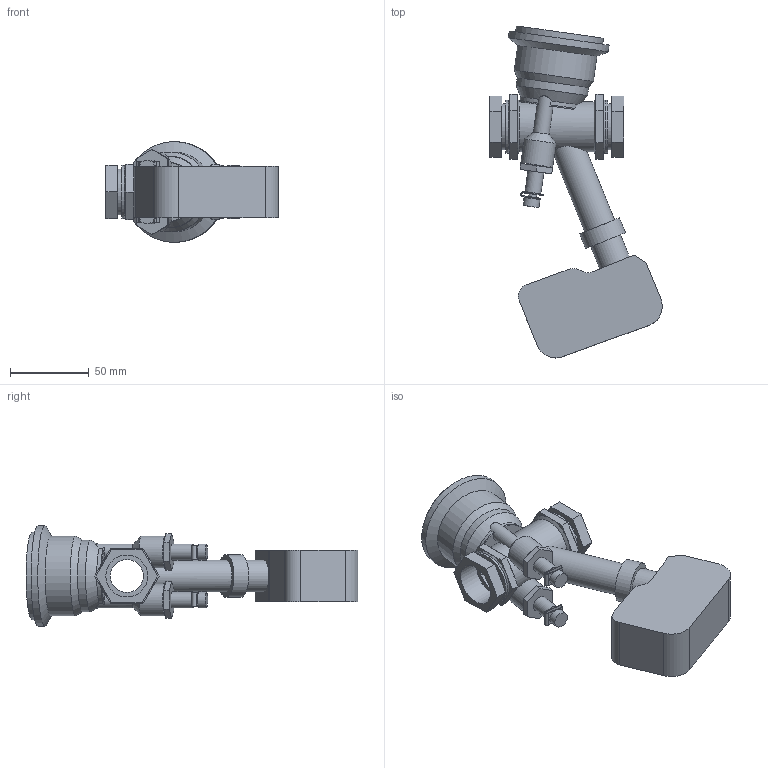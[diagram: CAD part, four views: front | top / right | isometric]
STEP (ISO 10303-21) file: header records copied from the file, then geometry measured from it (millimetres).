
FILE_DESCRIPTION(/* description */ ('VIC BALANCING AND CONTROL VALVE SERIES 7CP (FPT)-TA SLIDER 160 FAIL-SAFE','CAx-IF Rec.Pracs.---Representation and Presentation of Product Manufacturing Information (PMI)---4.0---2014-10-13'),/* implementation_level */ '2;1');
FILE_NAME(/* name */ 'C:\Users\Vjadhav\AppData\Roaming\Autodesk\ApplicationPlugins\Victaulic.Temp\A633\Victaulic_IPS_Valve Balancing Pressure Independent_TA Series 7CP (FPT)_Slider 160 Fail-Safe_0.75 (20).stp',/* time_stamp */ '2021-09-14T20:03:38+06:00',/* author */ ('Vjadhav'),/* organization */ ('Victaulic'),/* preprocessor_version */ 'ST-DEVELOPER v17.2',/* originating_system */ 'Autodesk Inventor 2019',/* authorisation */ '');
FILE_SCHEMA (('AP242_MANAGED_MODEL_BASED_3D_ENGINEERING_MIM_LF { 1 0 10303 442 1 1 4 }'));
Length unit declared in the file: inch
Products named in the file (2): 7CP_Slider 160 Fail-Safe-0.75; 7CP-0.75
Assembly tree (1 placements, depth 2):
  7CP_Slider 160 Fail-Safe-0.75
    7CP-0.75
Bounding box: 109.55 x 210.82 x 64.01 mm (x, y, z)
Volume: 294841.3 mm3; surface area: 58633.4 mm2
Topology: 1 solids, 1 shells, 173 faces, 441 edges, 294 vertices
Faces by surface type: plane 116, cylinder 48, cone 9
Full cylindrical faces by diameter (mm): 5.08 x6, 10.16 x8, 20.32 x4, 20.93 x2, 26.67 x3, 27.184 x1, 29.21 x2, 31.75 x1, 33.782 x2, 45.72 x1, 50.8 x1, 55.88 x1, 64.008 x1
Entity records: 5824 total; most frequent: CARTESIAN_POINT 1182, DIRECTION 945, ORIENTED_EDGE 882, EDGE_CURVE 441, AXIS2_PLACEMENT_3D 349, VERTEX_POINT 294, LINE 247, VECTOR 247
